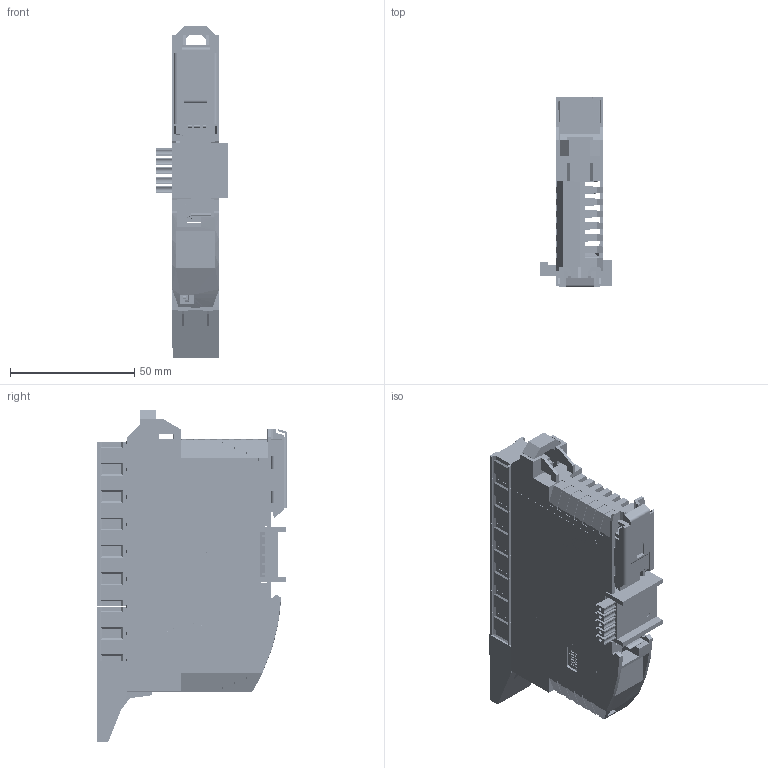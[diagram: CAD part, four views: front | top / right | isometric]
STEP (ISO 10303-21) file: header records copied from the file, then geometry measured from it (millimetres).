
FILE_DESCRIPTION(/* description */ (''),/* implementation_level */ '2;1');
FILE_NAME(/* name */ 'C:/Temp/STEP/FdxCompact_DI-16-C.step',/* time_stamp */ '2020-04-03T13:42:50+03:00',/* author */ (''),/* organization */ (''),/* preprocessor_version */ 'ST-DEVELOPER v18',/* originating_system */ 'Autodesk Translation Framework v8.12.0.6',/* authorisation */ '');
FILE_SCHEMA (('AUTOMOTIVE_DESIGN { 1 0 10303 214 3 1 1 }'));
Products named in the file (1): FdxCompact_DI-16-C
Bounding box: 29.2 x 76.5 x 133.55 mm (x, y, z)
Volume: 51437.7 mm3; surface area: 74016.4 mm2
Topology: 366 solids, 370 shells, 8108 faces, 21551 edges, 14331 vertices
Faces by surface type: plane 6198, bspline 885, cylinder 864, cone 96, sphere 33, torus 32
Full cylindrical faces by diameter (mm): 0.62 x1, 1 x19, 1.2 x32, 1.3 x32, 1.6 x10
Entity records: 389165 total; most frequent: CARTESIAN_POINT 183608, ORIENTED_EDGE 42886, DIRECTION 35974, EDGE_CURVE 21519, LINE 17248, VECTOR 17248, VERTEX_POINT 14331, AXIS2_PLACEMENT_3D 9363
